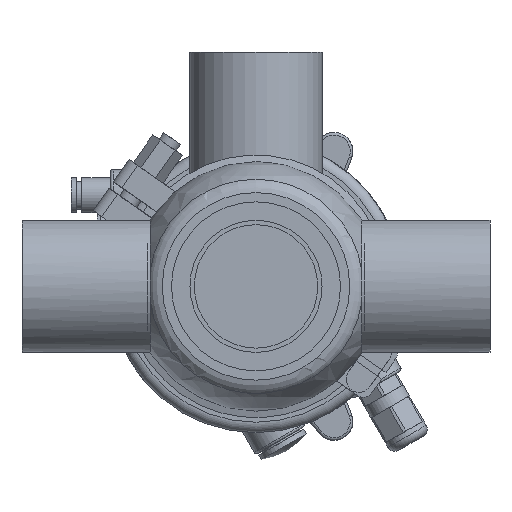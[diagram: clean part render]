
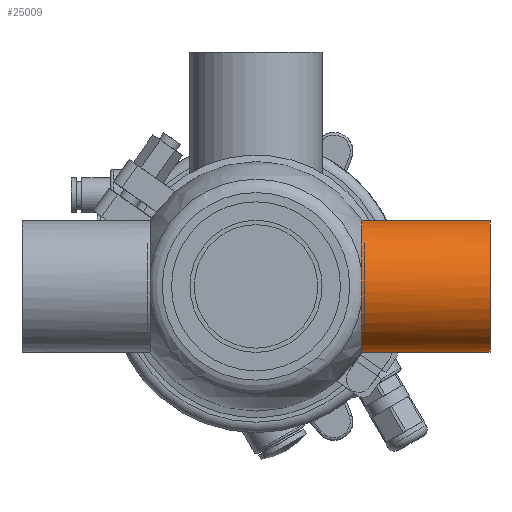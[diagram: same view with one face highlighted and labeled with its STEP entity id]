
A CAD part, front view. The second image highlights one B-rep face of the part: STEP entity #25009.
In plain terms, the highlighted cylindrical face has radius 25.4 mm (diameter 50.8 mm), a full revolution.
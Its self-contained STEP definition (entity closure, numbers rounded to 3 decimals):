
#921 = DIRECTION ( 'NONE',  ( 1., 0., 0. ) ) ;
#3977 = DIRECTION ( 'NONE',  ( 0., 0., 1. ) ) ;
#9243 = DIRECTION ( 'NONE',  ( -1., 0., 0. ) ) ;
#10632 = CARTESIAN_POINT ( 'NONE',  ( 40.689, -25.275, -2.566 ) ) ;
#11543 = CARTESIAN_POINT ( 'NONE',  ( 40.729, -24.902, 5.113 ) ) ;
#14977 = CARTESIAN_POINT ( 'NONE',  ( 40.729, -24.902, -5.113 ) ) ;
#16199 = CARTESIAN_POINT ( 'NONE',  ( 40.669, -25.4, -0.503 ) ) ;
#16233 = EDGE_CURVE ( 'NONE', #34587, #34587, #32810, .T. ) ;
#17243 = ORIENTED_EDGE ( 'NONE', *, *, #28884, .T. ) ;
#19303 = CYLINDRICAL_SURFACE ( 'NONE', #32737, 25.4 ) ;
#19989 = CARTESIAN_POINT ( 'NONE',  ( 40.682, -25.322, -2.053 ) ) ;
#24612 = CARTESIAN_POINT ( 'NONE',  ( 40.681, -25.337, 2.066 ) ) ;
#25009 = ADVANCED_FACE ( 'NONE', ( #32936, #37579 ), #19303, .T. ) ;
#25511 = CARTESIAN_POINT ( 'NONE',  ( 40.729, -24.652, 6.117 ) ) ;
#27673 = ORIENTED_EDGE ( 'NONE', *, *, #32167, .T. ) ;
#28101 = AXIS2_PLACEMENT_3D ( 'NONE', #52360, #921, #34063 ) ;
#28583 = CARTESIAN_POINT ( 'NONE',  ( 0., 0., 0. ) ) ;
#28884 = EDGE_CURVE ( 'NONE', #44413, #44285, #39328, .T. ) ;
#29373 = ORIENTED_EDGE ( 'NONE', *, *, #16233, .T. ) ;
#29638 = CARTESIAN_POINT ( 'NONE',  ( 90., 0., 25.4 ) ) ;
#32167 = EDGE_CURVE ( 'NONE', #44285, #44413, #54819, .T. ) ;
#32737 = AXIS2_PLACEMENT_3D ( 'NONE', #28583, #42891, #38834 ) ;
#32810 = CIRCLE ( 'NONE', #34822, 25.4 ) ;
#32936 = FACE_OUTER_BOUND ( 'NONE', #49777, .T. ) ;
#34063 = DIRECTION ( 'NONE',  ( 0., 0., 1. ) ) ;
#34587 = VERTEX_POINT ( 'NONE', #29638 ) ;
#34822 = AXIS2_PLACEMENT_3D ( 'NONE', #51742, #9243, #3977 ) ;
#35134 = CARTESIAN_POINT ( 'NONE',  ( 40.672, -25.385, -1.022 ) ) ;
#36294 = EDGE_LOOP ( 'NONE', ( #29373 ) ) ;
#37579 = FACE_OUTER_BOUND ( 'NONE', #36294, .T. ) ;
#38834 = DIRECTION ( 'NONE',  ( 0., 0., 1. ) ) ;
#38889 = CARTESIAN_POINT ( 'NONE',  ( 40.711, -25.088, -4.099 ) ) ;
#39328 = B_SPLINE_CURVE_WITH_KNOTS ( 'NONE', 3,
 ( #25511, #11543, #57836, #24612, #39804, #16199, #35134, #19989, #10632, #38889, #14977, #53750 ),
 .UNSPECIFIED., .F., .F.,
 ( 4, 2, 2, 2, 2, 4 ),
 ( 0., 0.003, 0.006, 0.008, 0.009, 0.012 ),
 .UNSPECIFIED. ) ;
#39804 = CARTESIAN_POINT ( 'NONE',  ( 40.67, -25.4, 1.042 ) ) ;
#42891 = DIRECTION ( 'NONE',  ( -1., 0., 0. ) ) ;
#44285 = VERTEX_POINT ( 'NONE', #55692 ) ;
#44413 = VERTEX_POINT ( 'NONE', #61290 ) ;
#49777 = EDGE_LOOP ( 'NONE', ( #27673, #17243 ) ) ;
#51742 = CARTESIAN_POINT ( 'NONE',  ( 90., 0., 0. ) ) ;
#52360 = CARTESIAN_POINT ( 'NONE',  ( 40.729, 0., 0. ) ) ;
#53750 = CARTESIAN_POINT ( 'NONE',  ( 40.729, -24.652, -6.117 ) ) ;
#54819 = CIRCLE ( 'NONE', #28101, 25.4 ) ;
#55692 = CARTESIAN_POINT ( 'NONE',  ( 40.729, -24.652, -6.117 ) ) ;
#57836 = CARTESIAN_POINT ( 'NONE',  ( 40.711, -25.088, 4.101 ) ) ;
#61290 = CARTESIAN_POINT ( 'NONE',  ( 40.729, -24.652, 6.117 ) ) ;
